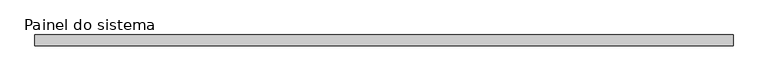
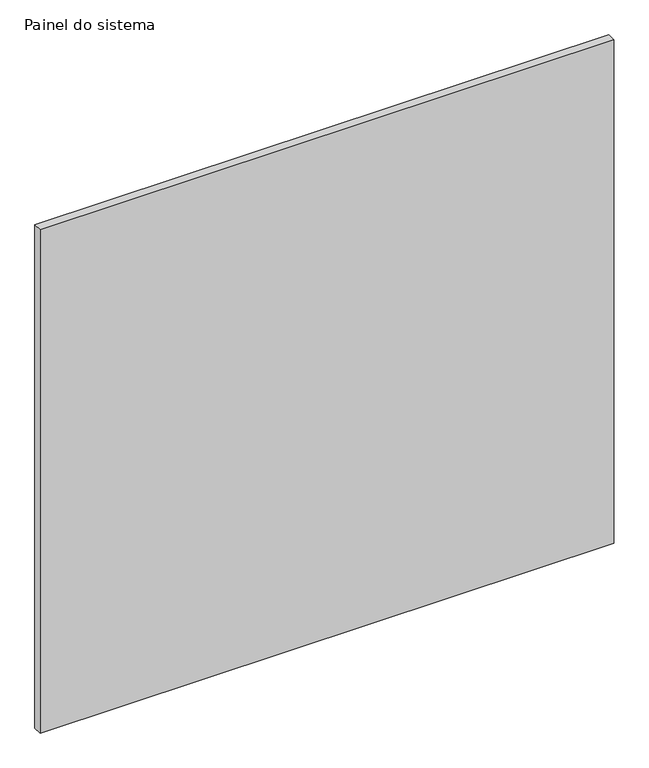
"""IFC4 building model written with IfcOpenShell, lengths in millimetres: plate geometry, Painel do sistema : Envidraçado."""

from ifc_helpers import new_model, si_unit, origin, origin_with_axes, place, context, project, spatial, polyline, outline, extrude, source, transform, mapped, element, save


def painel_do_sistema_09324d20(model_context):
    return source(origin(), model_context, "Body", "SweptSolid", [
        extrude(outline(polyline([(647.0833333, -10.0), (-647.0833333, -10.0), (-647.0833333, 10.0), (647.0833333, 10.0), (647.0833333, -10.0)])), origin_with_axes(), (0.0, 0.0, 1.0), 1200.0),
    ])


if __name__ == "__main__":
    model = new_model("IFC4")
    model_context = context("Model", 3, world=origin())
    ifc_project = project(units=[si_unit("LENGTHUNIT", "METRE", prefix="MILLI")], contexts=[model_context])
    site = spatial("IfcSite", under=ifc_project)
    building = spatial("IfcBuilding", under=site)
    placement = place(None, origin())
    painel_do_sistema_shape = painel_do_sistema_09324d20(model_context)
    element("IfcPlate", 1, ObjectType="Painel do sistema : Envidraçado", at=placement, inside=building, context=model_context, shape_type="MappedRepresentation", body=[
        mapped(painel_do_sistema_shape, transform((0.0, 0.0, 0.0), x_axis=(1.0, 0.0, 0.0), y_axis=(0.0, 1.0, 0.0), z_axis=(0.0, 0.0, 1.0))),
    ])
    save(model, "model.ifc")
